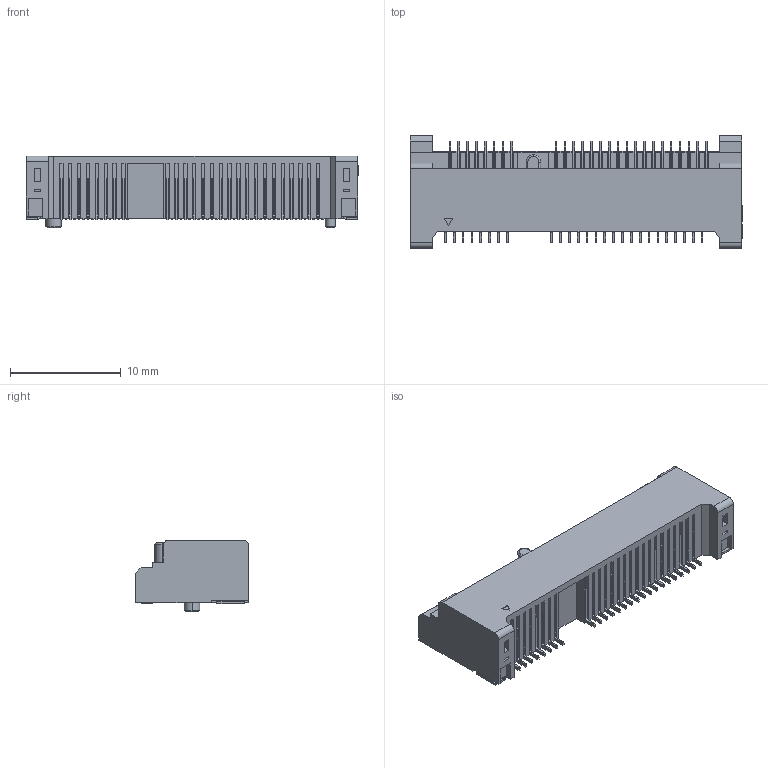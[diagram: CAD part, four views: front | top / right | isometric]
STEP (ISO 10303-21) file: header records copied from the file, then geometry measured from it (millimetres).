
FILE_DESCRIPTION (( 'STEP AP214' ), '1' );
FILE_NAME ('CONN-SMD_679105700.step', '2022-08-01T05:08:26', ( '' ), ( '' ), 'SwSTEP 2.0', 'SolidWorks 2020', '' );
FILE_SCHEMA (( 'AUTOMOTIVE_DESIGN' ));
Length unit declared in the file: millimetre
Products named in the file (1): CONN-SMD_679105700
Bounding box: 30 x 10.2 x 6.5 mm (x, y, z)
Volume: 1043.4 mm3; surface area: 1852 mm2
Topology: 14 solids, 14 shells, 1834 faces, 5111 edges, 3395 vertices
Faces by surface type: plane 1544, cylinder 172, bspline 112, cone 4, torus 2
Entity records: 67823 total; most frequent: CARTESIAN_POINT 12057, ORIENTED_EDGE 10222, DIRECTION 8637, EDGE_CURVE 5111, LINE 4489, VECTOR 4489, VERTEX_POINT 3395, AXIS2_PLACEMENT_3D 2074
